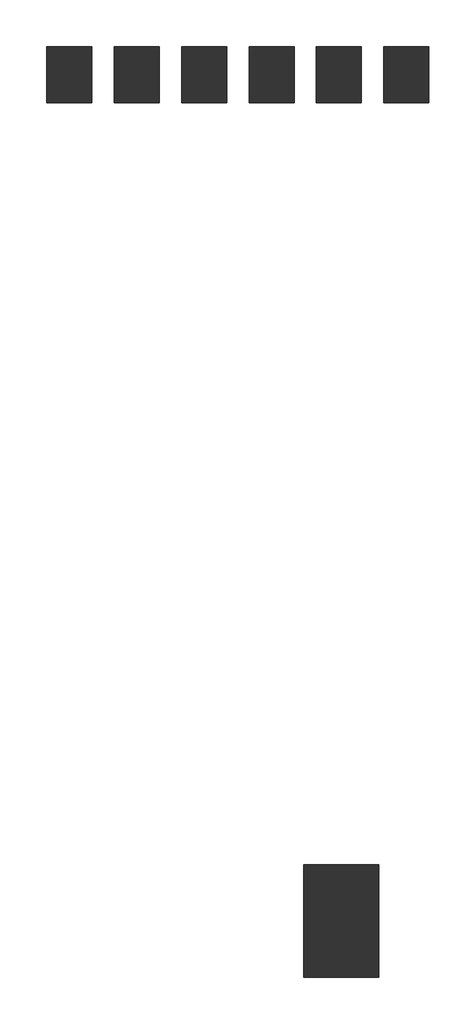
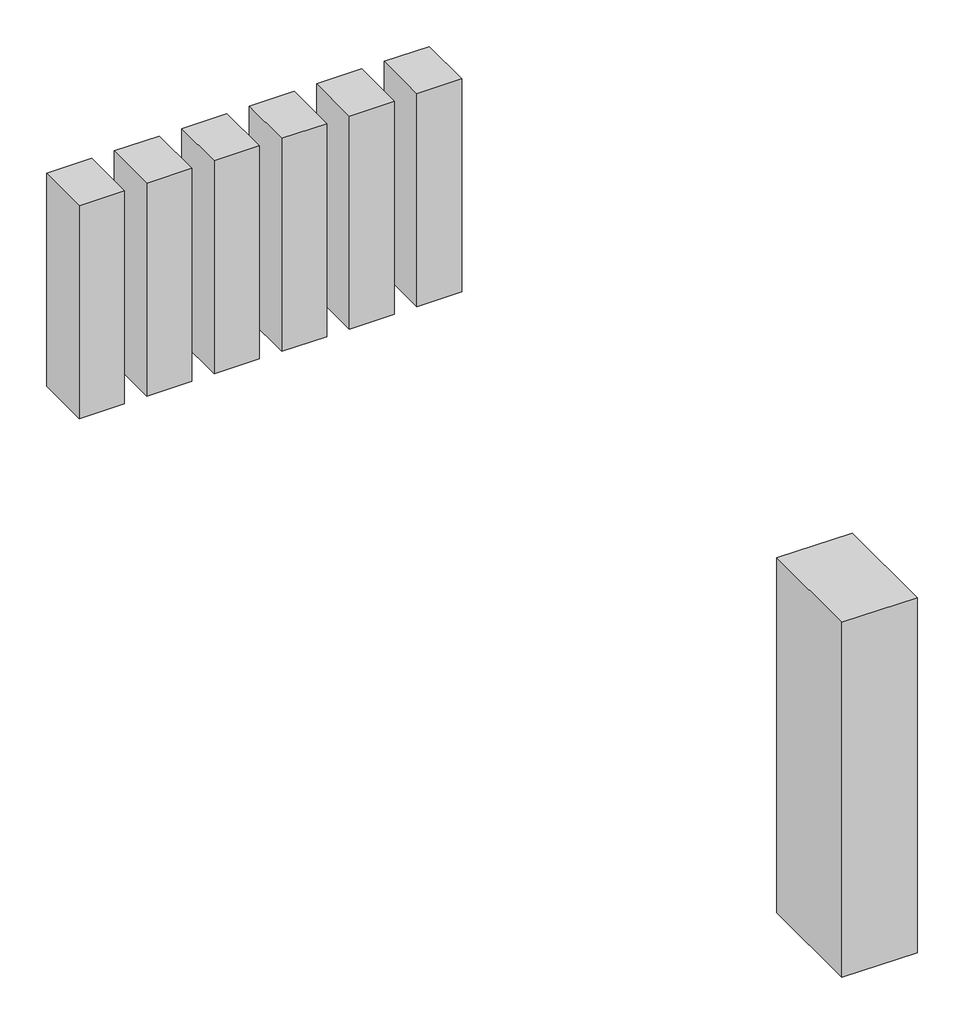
# One storey: 7 columns.
"""IFC4 building model written with IfcOpenShell, lengths in millimetres."""

from ifc_helpers import new_model, si_unit, origin, place, context, project, spatial, transform, mapped, element, save
from components import column_1000_x_1500mm_8442d7db, column_600_x_750mm_3019e928

model = new_model("IFC4")

# Units and contexts
model_context = context("Model", 3, world=origin())
ifc_project = project(units=[si_unit("LENGTHUNIT", "METRE", prefix="MILLI")], contexts=[model_context])

# Site, building, storey
site = spatial("IfcSite", under=ifc_project)
building = spatial("IfcBuilding", under=site)
storey = spatial("IfcBuildingStorey", under=building, Name="标高 1", Elevation=0.0)

# Columns
placement = place(None, origin())
column_1000_x_1500mm_shape = column_1000_x_1500mm_8442d7db(model_context)
element("IfcColumn", 1, ObjectType="混凝土 - 矩形 - 柱 : 1000 x 1500mm", at=placement, inside=storey, context=model_context, shape_type="MappedRepresentation", body=[
    mapped(column_1000_x_1500mm_shape, transform((673.2000814, -27905.9378395, 0.0), x_axis=(-1.0, 0.0, 0.0), y_axis=(0.0, -1.0, 0.0), z_axis=(0.0, 0.0, 1.0))),
])
column_600_x_750mm_shape = column_600_x_750mm_3019e928(model_context)
element("IfcColumn", 2, ObjectType="混凝土 - 矩形 - 柱 : 600 x 750mm", at=placement, inside=storey, context=model_context, shape_type="MappedRepresentation", body=[
    mapped(column_600_x_750mm_shape, transform((-2957.2340101, -16617.1255081, 0.0), x_axis=(1.0, 0.0, 0.0), y_axis=(0.0, 1.0, 0.0), z_axis=(0.0, 0.0, 1.0))),
])
element("IfcColumn", 3, ObjectType="混凝土 - 矩形 - 柱 : 600 x 750mm", at=placement, inside=storey, context=model_context, shape_type="MappedRepresentation", body=[
    mapped(column_600_x_750mm_shape, transform((-2057.2340101, -16617.1255081, 0.0), x_axis=(1.0, 0.0, 0.0), y_axis=(0.0, 1.0, 0.0), z_axis=(0.0, 0.0, 1.0))),
])
element("IfcColumn", 4, ObjectType="混凝土 - 矩形 - 柱 : 600 x 750mm", at=placement, inside=storey, context=model_context, shape_type="MappedRepresentation", body=[
    mapped(column_600_x_750mm_shape, transform((-1157.2340101, -16617.1255081, 0.0), x_axis=(1.0, 0.0, 0.0), y_axis=(0.0, 1.0, 0.0), z_axis=(0.0, 0.0, 1.0))),
])
element("IfcColumn", 5, ObjectType="混凝土 - 矩形 - 柱 : 600 x 750mm", at=placement, inside=storey, context=model_context, shape_type="MappedRepresentation", body=[
    mapped(column_600_x_750mm_shape, transform((-257.2340101, -16617.1255081, 0.0), x_axis=(1.0, 0.0, 0.0), y_axis=(0.0, 1.0, 0.0), z_axis=(0.0, 0.0, 1.0))),
])
element("IfcColumn", 6, ObjectType="混凝土 - 矩形 - 柱 : 600 x 750mm", at=placement, inside=storey, context=model_context, shape_type="MappedRepresentation", body=[
    mapped(column_600_x_750mm_shape, transform((642.7659899, -16617.1255081, 0.0), x_axis=(1.0, 0.0, 0.0), y_axis=(0.0, 1.0, 0.0), z_axis=(0.0, 0.0, 1.0))),
])
element("IfcColumn", 7, ObjectType="混凝土 - 矩形 - 柱 : 600 x 750mm", at=placement, inside=storey, context=model_context, shape_type="MappedRepresentation", body=[
    mapped(column_600_x_750mm_shape, transform((1542.7659899, -16617.1255081, 0.0), x_axis=(1.0, 0.0, 0.0), y_axis=(0.0, 1.0, 0.0), z_axis=(0.0, 0.0, 1.0))),
])

save(model, "model.ifc")
